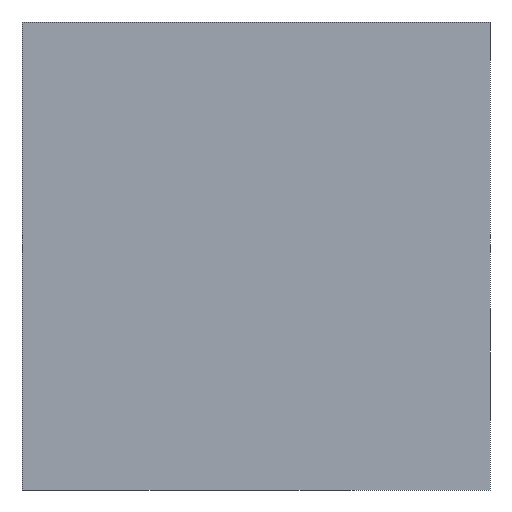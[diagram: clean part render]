
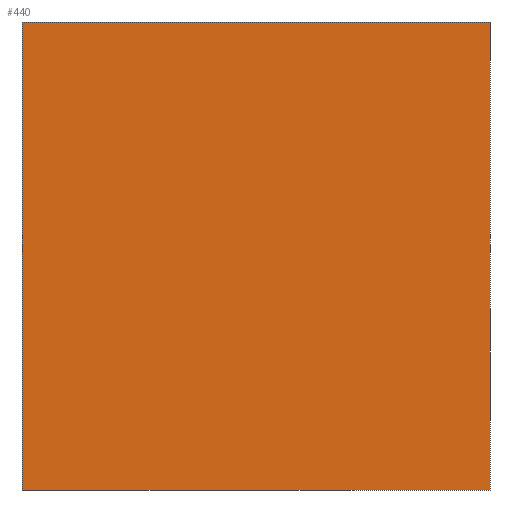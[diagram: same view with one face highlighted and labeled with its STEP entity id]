
A CAD part, left-side view. The second image highlights one B-rep face of the part: STEP entity #440.
In plain terms, the highlighted planar face has unit normal (-1, 0, 0).
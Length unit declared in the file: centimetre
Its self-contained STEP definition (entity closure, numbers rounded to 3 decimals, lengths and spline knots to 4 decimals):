
#23 = VERTEX_POINT ( 'NONE', #264 ) ;
#46 = ORIENTED_EDGE ( 'NONE', *, *, #1005, .F. ) ;
#157 = PLANE ( 'NONE',  #213 ) ;
#160 = VECTOR ( 'NONE', #197, 100. ) ;
#163 = DIRECTION ( 'NONE',  ( 0., 0., -1. ) ) ;
#194 = DIRECTION ( 'NONE',  ( 0., -1., 0. ) ) ;
#197 = DIRECTION ( 'NONE',  ( 0., -1., 0. ) ) ;
#213 = AXIS2_PLACEMENT_3D ( 'NONE', #644, #1226, #658 ) ;
#264 = CARTESIAN_POINT ( 'NONE',  ( 0., 1000., 1000. ) ) ;
#284 = VECTOR ( 'NONE', #363, 100. ) ;
#363 = DIRECTION ( 'NONE',  ( 0., 0., -1. ) ) ;
#385 = LINE ( 'NONE', #1160, #160 ) ;
#440 = ADVANCED_FACE ( 'NONE', ( #634 ), #157, .F. ) ;
#546 = EDGE_CURVE ( 'NONE', #991, #1132, #779, .T. ) ;
#601 = VERTEX_POINT ( 'NONE', #681 ) ;
#634 = FACE_OUTER_BOUND ( 'NONE', #1039, .T. ) ;
#644 = CARTESIAN_POINT ( 'NONE',  ( 0., 1000., 1000. ) ) ;
#658 = DIRECTION ( 'NONE',  ( 0., 0., -1. ) ) ;
#681 = CARTESIAN_POINT ( 'NONE',  ( 0., 0., 1000. ) ) ;
#690 = CARTESIAN_POINT ( 'NONE',  ( 0., 1000., 0. ) ) ;
#701 = LINE ( 'NONE', #1090, #711 ) ;
#707 = CARTESIAN_POINT ( 'NONE',  ( 0., 0., 0. ) ) ;
#711 = VECTOR ( 'NONE', #163, 100. ) ;
#731 = VECTOR ( 'NONE', #194, 100. ) ;
#744 = EDGE_CURVE ( 'NONE', #601, #1132, #701, .T. ) ;
#759 = EDGE_CURVE ( 'NONE', #23, #991, #1148, .T. ) ;
#779 = LINE ( 'NONE', #1146, #731 ) ;
#991 = VERTEX_POINT ( 'NONE', #690 ) ;
#1001 = ORIENTED_EDGE ( 'NONE', *, *, #546, .T. ) ;
#1005 = EDGE_CURVE ( 'NONE', #23, #601, #385, .T. ) ;
#1039 = EDGE_LOOP ( 'NONE', ( #1001, #1220, #46, #1041 ) ) ;
#1041 = ORIENTED_EDGE ( 'NONE', *, *, #759, .T. ) ;
#1090 = CARTESIAN_POINT ( 'NONE',  ( 0., 0., 1000. ) ) ;
#1127 = CARTESIAN_POINT ( 'NONE',  ( 0., 1000., 1000. ) ) ;
#1132 = VERTEX_POINT ( 'NONE', #707 ) ;
#1146 = CARTESIAN_POINT ( 'NONE',  ( 0., 1000., 0. ) ) ;
#1148 = LINE ( 'NONE', #1127, #284 ) ;
#1160 = CARTESIAN_POINT ( 'NONE',  ( 0., 1000., 1000. ) ) ;
#1220 = ORIENTED_EDGE ( 'NONE', *, *, #744, .F. ) ;
#1226 = DIRECTION ( 'NONE',  ( 1., 0., 0. ) ) ;
